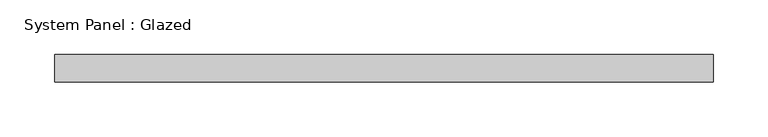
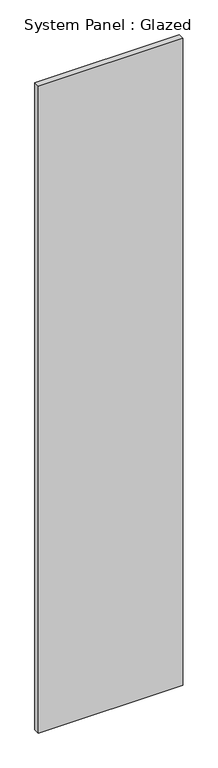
"""IFC4 building model written with IfcOpenShell, lengths in millimetres: plate geometry, System Panel : Glazed."""

from ifc_helpers import new_model, si_unit, origin, origin_with_axes, place, context, project, spatial, polyline, outline, extrude, source, transform, mapped, element, save


def system_panel_glazed_1122010d(model_context):
    return source(origin(), model_context, "Body", "SweptSolid", [
        extrude(outline(polyline([(300.75, 24.5), (-300.75, 24.5), (-300.75, 49.5), (300.75, 49.5), (300.75, 24.5)])), origin_with_axes(), (0.0, 0.0, 1.0), 2850.0),
    ])


if __name__ == "__main__":
    model = new_model("IFC4")
    model_context = context("Model", 3, world=origin())
    ifc_project = project(units=[si_unit("LENGTHUNIT", "METRE", prefix="MILLI")], contexts=[model_context])
    site = spatial("IfcSite", under=ifc_project)
    building = spatial("IfcBuilding", under=site)
    placement = place(None, origin())
    system_panel_glazed_shape = system_panel_glazed_1122010d(model_context)
    element("IfcPlate", 1, ObjectType="System Panel : Glazed", at=placement, inside=building, context=model_context, shape_type="MappedRepresentation", body=[
        mapped(system_panel_glazed_shape, transform((0.0, 0.0, 0.0), x_axis=(1.0, 0.0, 0.0), y_axis=(0.0, 1.0, 0.0), z_axis=(0.0, 0.0, 1.0))),
    ])
    save(model, "model.ifc")
